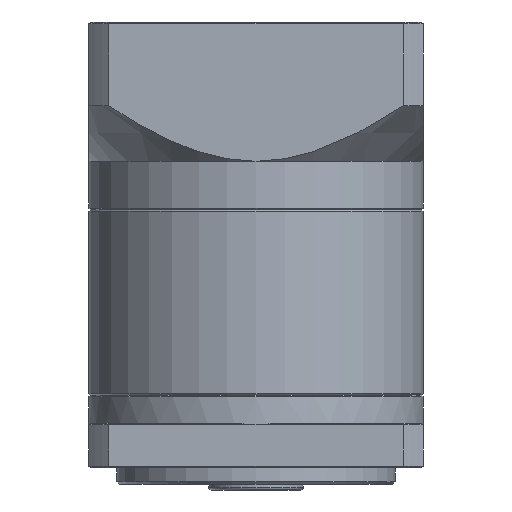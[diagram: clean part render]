
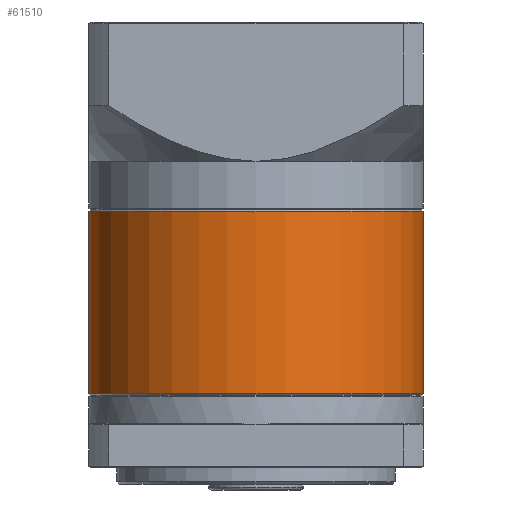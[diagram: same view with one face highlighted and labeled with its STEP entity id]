
A CAD part, front view. The second image highlights one B-rep face of the part: STEP entity #61510.
In plain terms, the highlighted cylindrical face has radius 30 mm (diameter 60 mm), a partial arc.
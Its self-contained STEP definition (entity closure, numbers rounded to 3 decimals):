
#3614 = DIRECTION ( 'NONE',  ( 1., 0., 0. ) ) ;
#3859 = CARTESIAN_POINT ( 'NONE',  ( -67.326, 30.565, -66.79 ) ) ;
#7074 = CARTESIAN_POINT ( 'NONE',  ( -7.326, 30.565, -33.74 ) ) ;
#10241 = CYLINDRICAL_SURFACE ( 'NONE', #28829, 30. ) ;
#11184 = EDGE_CURVE ( 'NONE', #33508, #19648, #13491, .T. ) ;
#11290 = EDGE_LOOP ( 'NONE', ( #12297, #31381, #77800, #96904 ) ) ;
#11694 = LINE ( 'NONE', #7074, #31713 ) ;
#12297 = ORIENTED_EDGE ( 'NONE', *, *, #44739, .F. ) ;
#13472 = VECTOR ( 'NONE', #87966, 1000. ) ;
#13491 = CIRCLE ( 'NONE', #74599, 30. ) ;
#15309 = CIRCLE ( 'NONE', #20947, 30. ) ;
#17769 = DIRECTION ( 'NONE',  ( 0., 0., -1. ) ) ;
#18011 = DIRECTION ( 'NONE',  ( -1., 0., 0. ) ) ;
#19648 = VERTEX_POINT ( 'NONE', #36875 ) ;
#20947 = AXIS2_PLACEMENT_3D ( 'NONE', #85558, #17769, #3614 ) ;
#24169 = CARTESIAN_POINT ( 'NONE',  ( -37.326, 30.565, -66.79 ) ) ;
#28829 = AXIS2_PLACEMENT_3D ( 'NONE', #78572, #71370, #18011 ) ;
#31381 = ORIENTED_EDGE ( 'NONE', *, *, #94117, .T. ) ;
#31713 = VECTOR ( 'NONE', #88996, 1000. ) ;
#32327 = DIRECTION ( 'NONE',  ( 0., 0., 1. ) ) ;
#33508 = VERTEX_POINT ( 'NONE', #3859 ) ;
#36875 = CARTESIAN_POINT ( 'NONE',  ( -7.326, 30.565, -66.79 ) ) ;
#44739 = EDGE_CURVE ( 'NONE', #82703, #19648, #11694, .T. ) ;
#61510 = ADVANCED_FACE ( 'NONE', ( #92357 ), #10241, .T. ) ;
#65410 = CARTESIAN_POINT ( 'NONE',  ( -67.326, 30.565, -33.74 ) ) ;
#71370 = DIRECTION ( 'NONE',  ( 0., 0., -1. ) ) ;
#74599 = AXIS2_PLACEMENT_3D ( 'NONE', #24169, #32327, #77832 ) ;
#77800 = ORIENTED_EDGE ( 'NONE', *, *, #96514, .T. ) ;
#77832 = DIRECTION ( 'NONE',  ( 1., 0., 0. ) ) ;
#78572 = CARTESIAN_POINT ( 'NONE',  ( -37.326, 30.565, -33.74 ) ) ;
#80336 = VERTEX_POINT ( 'NONE', #83062 ) ;
#82655 = LINE ( 'NONE', #65410, #13472 ) ;
#82703 = VERTEX_POINT ( 'NONE', #84620 ) ;
#83062 = CARTESIAN_POINT ( 'NONE',  ( -67.326, 30.565, -33.99 ) ) ;
#84620 = CARTESIAN_POINT ( 'NONE',  ( -7.326, 30.565, -33.99 ) ) ;
#85558 = CARTESIAN_POINT ( 'NONE',  ( -37.326, 30.565, -33.99 ) ) ;
#87966 = DIRECTION ( 'NONE',  ( 0., 0., -1. ) ) ;
#88996 = DIRECTION ( 'NONE',  ( 0., 0., -1. ) ) ;
#92357 = FACE_OUTER_BOUND ( 'NONE', #11290, .T. ) ;
#94117 = EDGE_CURVE ( 'NONE', #82703, #80336, #15309, .T. ) ;
#96514 = EDGE_CURVE ( 'NONE', #80336, #33508, #82655, .T. ) ;
#96904 = ORIENTED_EDGE ( 'NONE', *, *, #11184, .T. ) ;
